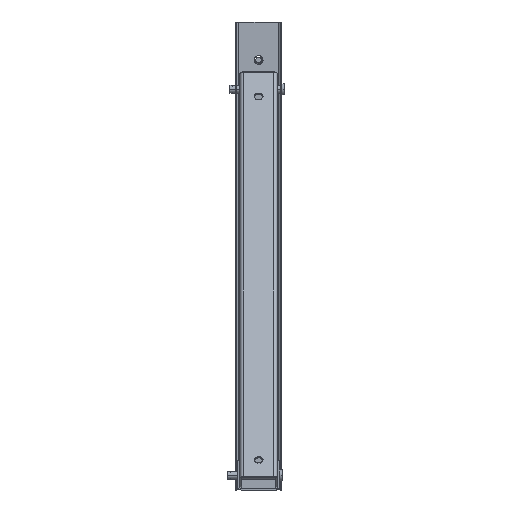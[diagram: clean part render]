
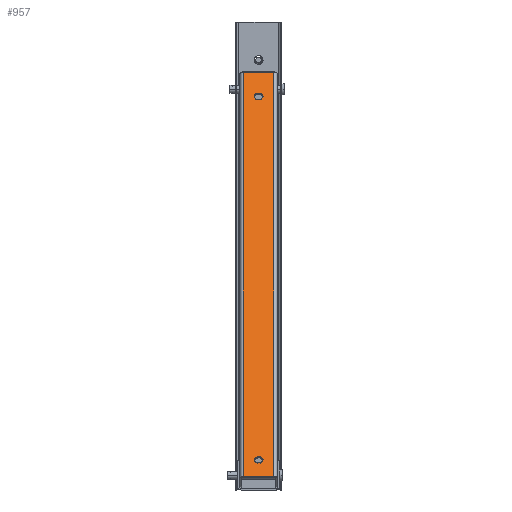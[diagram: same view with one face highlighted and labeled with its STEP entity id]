
A CAD part, front view. The second image highlights one B-rep face of the part: STEP entity #957.
In plain terms, the highlighted planar face has unit normal (0, -0.703, 0.712) as drawn and (0, -1, 0) by its records, which use the part's own axes.
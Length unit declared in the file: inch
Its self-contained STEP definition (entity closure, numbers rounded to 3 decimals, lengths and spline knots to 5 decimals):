
#689 = VERTEX_POINT ( 'NONE', #2380 ) ;
#696 = VERTEX_POINT ( 'NONE', #2429 ) ;
#698 = EDGE_CURVE ( 'NONE', #696, #689, #2428, .T. ) ;
#710 = VERTEX_POINT ( 'NONE', #2413 ) ;
#712 = EDGE_CURVE ( 'NONE', #710, #746, #2412, .T. ) ;
#746 = VERTEX_POINT ( 'NONE', #2473 ) ;
#885 = VERTEX_POINT ( 'NONE', #2760 ) ;
#901 = EDGE_CURVE ( 'NONE', #746, #710, #2787, .T. ) ;
#928 = ORIENTED_EDGE ( 'NONE', *, *, #942, .F. ) ;
#929 = VERTEX_POINT ( 'NONE', #2811 ) ;
#932 = ORIENTED_EDGE ( 'NONE', *, *, #939, .F. ) ;
#935 = ORIENTED_EDGE ( 'NONE', *, *, #958, .T. ) ;
#939 = EDGE_CURVE ( 'NONE', #962, #929, #2799, .T. ) ;
#942 = EDGE_CURVE ( 'NONE', #929, #946, #2861, .T. ) ;
#945 = ORIENTED_EDGE ( 'NONE', *, *, #712, .F. ) ;
#946 = VERTEX_POINT ( 'NONE', #2852 ) ;
#947 = EDGE_LOOP ( 'NONE', ( #948, #950 ) ) ;
#948 = ORIENTED_EDGE ( 'NONE', *, *, #953, .F. ) ;
#949 = ORIENTED_EDGE ( 'NONE', *, *, #955, .T. ) ;
#950 = ORIENTED_EDGE ( 'NONE', *, *, #698, .F. ) ;
#952 = EDGE_LOOP ( 'NONE', ( #949, #928, #932, #935 ) ) ;
#953 = EDGE_CURVE ( 'NONE', #689, #696, #2851, .T. ) ;
#955 = EDGE_CURVE ( 'NONE', #885, #946, #2845, .T. ) ;
#957 = ADVANCED_FACE ( 'NONE', ( #2841, #2840, #2839 ), #2838, .F. ) ;
#958 = EDGE_CURVE ( 'NONE', #962, #885, #2833, .T. ) ;
#959 = EDGE_LOOP ( 'NONE', ( #961, #945 ) ) ;
#961 = ORIENTED_EDGE ( 'NONE', *, *, #901, .F. ) ;
#962 = VERTEX_POINT ( 'NONE', #2887 ) ;
#2380 = CARTESIAN_POINT ( 'NONE',  ( 0., 0., 22.92 ) ) ;
#2409 = DIRECTION ( 'NONE',  ( 0., -1., 0. ) ) ;
#2410 = CARTESIAN_POINT ( 'NONE',  ( 0., 0., 1. ) ) ;
#2411 = AXIS2_PLACEMENT_3D ( 'NONE', #2410, #2409, #2471 ) ;
#2412 = CIRCLE ( 'NONE', #2411, 0.19 ) ;
#2413 = CARTESIAN_POINT ( 'NONE',  ( 0., 0., 1.19 ) ) ;
#2424 = DIRECTION ( 'NONE',  ( 0., 0., -1. ) ) ;
#2425 = DIRECTION ( 'NONE',  ( 0., -1., 0. ) ) ;
#2426 = CARTESIAN_POINT ( 'NONE',  ( 0., 0., 23.11 ) ) ;
#2427 = AXIS2_PLACEMENT_3D ( 'NONE', #2426, #2425, #2424 ) ;
#2428 = CIRCLE ( 'NONE', #2427, 0.19 ) ;
#2429 = CARTESIAN_POINT ( 'NONE',  ( 0., 0., 23.3 ) ) ;
#2471 = DIRECTION ( 'NONE',  ( 0., 0., -1. ) ) ;
#2473 = CARTESIAN_POINT ( 'NONE',  ( 0., 0., 0.81 ) ) ;
#2760 = CARTESIAN_POINT ( 'NONE',  ( -0.648, 0., 0. ) ) ;
#2783 = DIRECTION ( 'NONE',  ( 0., 0., -1. ) ) ;
#2784 = DIRECTION ( 'NONE',  ( 0., -1., 0. ) ) ;
#2785 = CARTESIAN_POINT ( 'NONE',  ( 0., 0., 1. ) ) ;
#2786 = AXIS2_PLACEMENT_3D ( 'NONE', #2785, #2784, #2783 ) ;
#2787 = CIRCLE ( 'NONE', #2786, 0.19 ) ;
#2796 = DIRECTION ( 'NONE',  ( 1., 0., 0. ) ) ;
#2797 = VECTOR ( 'NONE', #2796, 39.37008 ) ;
#2798 = CARTESIAN_POINT ( 'NONE',  ( 0.648, 0., 24.61 ) ) ;
#2799 = LINE ( 'NONE', #2798, #2797 ) ;
#2811 = CARTESIAN_POINT ( 'NONE',  ( 0.648, 0., 24.61 ) ) ;
#2830 = DIRECTION ( 'NONE',  ( 0., 0., -1. ) ) ;
#2831 = VECTOR ( 'NONE', #2830, 39.37008 ) ;
#2832 = CARTESIAN_POINT ( 'NONE',  ( -0.648, 0., 24.61 ) ) ;
#2833 = LINE ( 'NONE', #2832, #2831 ) ;
#2834 = DIRECTION ( 'NONE',  ( 0., 0., 1. ) ) ;
#2835 = DIRECTION ( 'NONE',  ( 0., 1., 0. ) ) ;
#2836 = CARTESIAN_POINT ( 'NONE',  ( 0.648, 0., 24.61 ) ) ;
#2837 = AXIS2_PLACEMENT_3D ( 'NONE', #2836, #2835, #2834 ) ;
#2838 = PLANE ( 'NONE',  #2837 ) ;
#2839 = FACE_OUTER_BOUND ( 'NONE', #952, .T. ) ;
#2840 = FACE_BOUND ( 'NONE', #947, .T. ) ;
#2841 = FACE_BOUND ( 'NONE', #959, .T. ) ;
#2842 = DIRECTION ( 'NONE',  ( 1., 0., 0. ) ) ;
#2843 = VECTOR ( 'NONE', #2842, 39.37008 ) ;
#2844 = CARTESIAN_POINT ( 'NONE',  ( 0.648, 0., 0. ) ) ;
#2845 = LINE ( 'NONE', #2844, #2843 ) ;
#2847 = DIRECTION ( 'NONE',  ( 0., 0., -1. ) ) ;
#2848 = DIRECTION ( 'NONE',  ( 0., -1., 0. ) ) ;
#2849 = CARTESIAN_POINT ( 'NONE',  ( 0., 0., 23.11 ) ) ;
#2850 = AXIS2_PLACEMENT_3D ( 'NONE', #2849, #2848, #2847 ) ;
#2851 = CIRCLE ( 'NONE', #2850, 0.19 ) ;
#2852 = CARTESIAN_POINT ( 'NONE',  ( 0.648, 0., 0. ) ) ;
#2858 = DIRECTION ( 'NONE',  ( 0., 0., -1. ) ) ;
#2859 = VECTOR ( 'NONE', #2858, 39.37008 ) ;
#2860 = CARTESIAN_POINT ( 'NONE',  ( 0.648, 0., 24.61 ) ) ;
#2861 = LINE ( 'NONE', #2860, #2859 ) ;
#2887 = CARTESIAN_POINT ( 'NONE',  ( -0.648, 0., 24.61 ) ) ;
